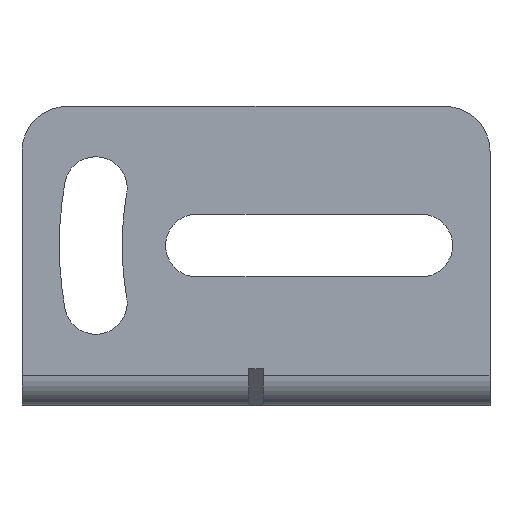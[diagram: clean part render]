
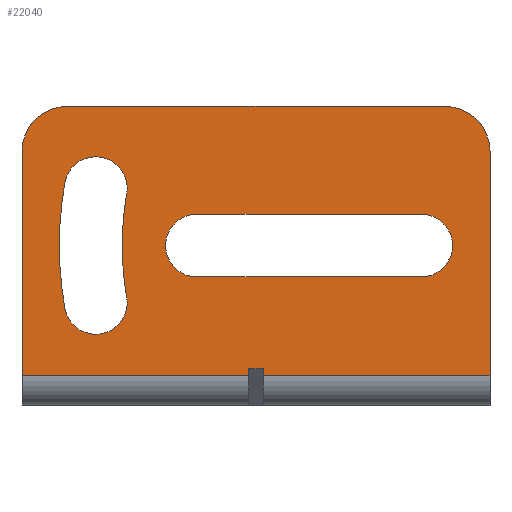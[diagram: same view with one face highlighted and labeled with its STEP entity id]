
A CAD part, front view. The second image highlights one B-rep face of the part: STEP entity #22040.
In plain terms, the highlighted planar face has unit normal (0, -1, 0).
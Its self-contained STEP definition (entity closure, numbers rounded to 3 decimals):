
#5000=CARTESIAN_POINT('',(-15.65,0.,17.));
#5010=VERTEX_POINT('',#5000);
#5040=CARTESIAN_POINT('',(-15.65,0.,0.));
#5050=DIRECTION('',(0.,0.,1.));
#5060=VECTOR('',#5050,1.);
#5070=LINE('',#5040,#5060);
#5080=CARTESIAN_POINT('',(-15.65,0.,2.));
#5090=VERTEX_POINT('',#5080);
#5100=EDGE_CURVE('',#5090,#5010,#5070,.T.);
#7600=CARTESIAN_POINT('',(11.05,0.,12.8));
#7610=VERTEX_POINT('',#7600);
#7640=CARTESIAN_POINT('',(11.05,0.,10.7));
#7650=DIRECTION('',(0.,-1.,0.));
#7660=DIRECTION('',(1.,0.,0.));
#7670=AXIS2_PLACEMENT_3D('',#7640,#7650,#7660);
#7680=CIRCLE('',#7670,2.1);
#7690=CARTESIAN_POINT('',(13.15,0.,10.7));
#7700=VERTEX_POINT('',#7690);
#7710=EDGE_CURVE('',#7700,#7610,#7680,.T.);
#7920=CARTESIAN_POINT('',(11.05,0.,8.6));
#7930=VERTEX_POINT('',#7920);
#7960=CARTESIAN_POINT('',(0.,0.,8.6));
#7970=DIRECTION('',(1.,0.,0.));
#7980=VECTOR('',#7970,1.);
#7990=LINE('',#7960,#7980);
#8000=CARTESIAN_POINT('',(-3.95,0.,8.6));
#8010=VERTEX_POINT('',#8000);
#8020=EDGE_CURVE('',#8010,#7930,#7990,.T.);
#8200=CARTESIAN_POINT('',(-3.95,0.,10.7));
#8210=DIRECTION('',(0.,-1.,0.));
#8220=DIRECTION('',(1.,0.,0.));
#8230=AXIS2_PLACEMENT_3D('',#8200,#8210,#8220);
#8240=CIRCLE('',#8230,2.1);
#8250=CARTESIAN_POINT('',(-6.05,0.,10.7));
#8260=VERTEX_POINT('',#8250);
#8270=EDGE_CURVE('',#8260,#8010,#8240,.T.);
#8480=CARTESIAN_POINT('',(-3.95,0.,12.8));
#8490=VERTEX_POINT('',#8480);
#8520=CARTESIAN_POINT('',(0.,0.,12.8));
#8530=DIRECTION('',(-1.,0.,0.));
#8540=VECTOR('',#8530,1.);
#8550=LINE('',#8520,#8540);
#8560=EDGE_CURVE('',#7610,#8490,#8550,.T.);
#8690=CARTESIAN_POINT('',(15.65,0.,2.));
#8700=VERTEX_POINT('',#8690);
#8730=CARTESIAN_POINT('',(15.65,0.,0.));
#8740=DIRECTION('',(0.,0.,1.));
#8750=VECTOR('',#8740,1.);
#8760=LINE('',#8730,#8750);
#8770=CARTESIAN_POINT('',(15.65,0.,17.));
#8780=VERTEX_POINT('',#8770);
#8790=EDGE_CURVE('',#8700,#8780,#8760,.T.);
#9920=CARTESIAN_POINT('',(0.5,0.,2.));
#9930=VERTEX_POINT('',#9920);
#9960=CARTESIAN_POINT('',(0.,0.,2.));
#9970=DIRECTION('',(1.,0.,0.));
#9980=VECTOR('',#9970,1.);
#9990=LINE('',#9960,#9980);
#10000=EDGE_CURVE('',#9930,#8700,#9990,.T.);
#10400=CARTESIAN_POINT('',(0.,0.,2.));
#10410=DIRECTION('',(1.,0.,0.));
#10420=VECTOR('',#10410,1.);
#10430=LINE('',#10400,#10420);
#10440=CARTESIAN_POINT('',(-0.5,0.,2.));
#10450=VERTEX_POINT('',#10440);
#10460=EDGE_CURVE('',#5090,#10450,#10430,.T.);
#10580=EDGE_CURVE('',#8490,#8260,#8240,.T.);
#10660=EDGE_CURVE('',#7930,#7700,#7680,.T.);
#20560=CARTESIAN_POINT('',(12.65,0.,20.));
#20570=VERTEX_POINT('',#20560);
#20600=CARTESIAN_POINT('',(-15.65,0.,20.));
#20610=DIRECTION('',(1.,0.,0.));
#20620=VECTOR('',#20610,1.);
#20630=LINE('',#20600,#20620);
#20640=CARTESIAN_POINT('',(-12.65,0.,20.));
#20650=VERTEX_POINT('',#20640);
#20660=EDGE_CURVE('',#20650,#20570,#20630,.T.);
#20940=CARTESIAN_POINT('',(15.65,0.,0.));
#20950=DIRECTION('',(-0.,-1.,-0.));
#20960=DIRECTION('',(-1.,0.,0.));
#20970=AXIS2_PLACEMENT_3D('',#20940,#20950,#20960);
#20980=PLANE('',#20970);
#20990=ORIENTED_EDGE('',*,*,#10580,.F.);
#21000=ORIENTED_EDGE('',*,*,#8270,.F.);
#21010=ORIENTED_EDGE('',*,*,#8020,.F.);
#21020=ORIENTED_EDGE('',*,*,#10660,.F.);
#21030=ORIENTED_EDGE('',*,*,#7710,.F.);
#21040=ORIENTED_EDGE('',*,*,#8560,.F.);
#21050=EDGE_LOOP('',(#21040,#21030,#21020,#21010,#21000,#20990));
#21060=FACE_BOUND('',#21050,.T.);
#21070=CARTESIAN_POINT('',(-10.714,0.,6.862));
#21080=DIRECTION('',(0.,-1.,0.));
#21090=DIRECTION('',(1.,0.,0.));
#21100=AXIS2_PLACEMENT_3D('',#21070,#21080,#21090);
#21110=CIRCLE('',#21100,2.1);
#21120=CARTESIAN_POINT('',(-12.782,0.,6.498));
#21130=VERTEX_POINT('',#21120);
#21140=CARTESIAN_POINT('',(-8.614,0.,6.862));
#21150=VERTEX_POINT('',#21140);
#21160=EDGE_CURVE('',#21130,#21150,#21110,.T.);
#21170=ORIENTED_EDGE('',*,*,#21160,.F.);
#21180=CARTESIAN_POINT('',(-8.646,0.,7.227));
#21190=VERTEX_POINT('',#21180);
#21200=EDGE_CURVE('',#21150,#21190,#21110,.T.);
#21210=ORIENTED_EDGE('',*,*,#21200,.F.);
#21220=CARTESIAN_POINT('',(11.05,0.,10.7));
#21230=DIRECTION('',(0.,-1.,0.));
#21240=DIRECTION('',(1.,0.,0.));
#21250=AXIS2_PLACEMENT_3D('',#21220,#21230,#21240);
#21260=CIRCLE('',#21250,20.);
#21270=CARTESIAN_POINT('',(-8.95,0.,10.7));
#21280=VERTEX_POINT('',#21270);
#21290=EDGE_CURVE('',#21280,#21190,#21260,.T.);
#21300=ORIENTED_EDGE('',*,*,#21290,.T.);
#21310=CARTESIAN_POINT('',(-8.646,0.,14.173));
#21320=VERTEX_POINT('',#21310);
#21330=EDGE_CURVE('',#21320,#21280,#21260,.T.);
#21340=ORIENTED_EDGE('',*,*,#21330,.T.);
#21350=CARTESIAN_POINT('',(-10.714,0.,14.538));
#21360=DIRECTION('',(0.,-1.,0.));
#21370=DIRECTION('',(1.,0.,0.));
#21380=AXIS2_PLACEMENT_3D('',#21350,#21360,#21370);
#21390=CIRCLE('',#21380,2.1);
#21400=CARTESIAN_POINT('',(-8.614,0.,14.538));
#21410=VERTEX_POINT('',#21400);
#21420=EDGE_CURVE('',#21320,#21410,#21390,.T.);
#21430=ORIENTED_EDGE('',*,*,#21420,.F.);
#21440=CARTESIAN_POINT('',(-12.782,0.,14.902));
#21450=VERTEX_POINT('',#21440);
#21460=EDGE_CURVE('',#21410,#21450,#21390,.T.);
#21470=ORIENTED_EDGE('',*,*,#21460,.F.);
#21480=CARTESIAN_POINT('',(11.05,0.,10.7));
#21490=DIRECTION('',(0.,-1.,0.));
#21500=DIRECTION('',(1.,0.,0.));
#21510=AXIS2_PLACEMENT_3D('',#21480,#21490,#21500);
#21520=CIRCLE('',#21510,24.2);
#21530=CARTESIAN_POINT('',(-13.15,0.,10.7));
#21540=VERTEX_POINT('',#21530);
#21550=EDGE_CURVE('',#21450,#21540,#21520,.T.);
#21560=ORIENTED_EDGE('',*,*,#21550,.F.);
#21570=EDGE_CURVE('',#21540,#21130,#21520,.T.);
#21580=ORIENTED_EDGE('',*,*,#21570,.F.);
#21590=EDGE_LOOP('',(#21580,#21560,#21470,#21430,#21340,#21300,#21210,
#21170));
#21600=FACE_BOUND('',#21590,.T.);
#21610=CARTESIAN_POINT('',(0.5,0.,0.));
#21620=DIRECTION('',(0.,0.,1.));
#21630=VECTOR('',#21620,1.);
#21640=LINE('',#21610,#21630);
#21650=CARTESIAN_POINT('',(0.5,0.,2.454));
#21660=VERTEX_POINT('',#21650);
#21670=EDGE_CURVE('',#9930,#21660,#21640,.T.);
#21680=ORIENTED_EDGE('',*,*,#21670,.F.);
#21690=CARTESIAN_POINT('',(0.,0.,2.454));
#21700=DIRECTION('',(-1.,0.,0.));
#21710=VECTOR('',#21700,1.);
#21720=LINE('',#21690,#21710);
#21730=CARTESIAN_POINT('',(-0.5,0.,2.454))
;
#21740=VERTEX_POINT('',#21730);
#21750=EDGE_CURVE('',#21660,#21740,#21720,.T.);
#21760=ORIENTED_EDGE('',*,*,#21750,.F.);
#21770=CARTESIAN_POINT('',(-0.5,0.,0.));
#21780=DIRECTION('',(0.,0.,1.));
#21790=VECTOR('',#21780,1.);
#21800=LINE('',#21770,#21790);
#21810=EDGE_CURVE('',#10450,#21740,#21800,.T.);
#21820=ORIENTED_EDGE('',*,*,#21810,.T.);
#21830=ORIENTED_EDGE('',*,*,#10460,.T.);
#21840=ORIENTED_EDGE('',*,*,#5100,.F.);
#21850=CARTESIAN_POINT('',(-12.65,0.,17.));
#21860=DIRECTION('',(0.,-1.,0.));
#21870=DIRECTION('',(-1.,0.,0.));
#21880=AXIS2_PLACEMENT_3D('',#21850,#21860,#21870);
#21890=CIRCLE('',#21880,3.);
#21900=EDGE_CURVE('',#20650,#5010,#21890,.T.);
#21910=ORIENTED_EDGE('',*,*,#21900,.T.);
#21920=ORIENTED_EDGE('',*,*,#20660,.F.);
#21930=CARTESIAN_POINT('',(12.65,0.,17.));
#21940=DIRECTION('',(0.,1.,0.));
#21950=DIRECTION('',(1.,0.,0.));
#21960=AXIS2_PLACEMENT_3D('',#21930,#21940,#21950);
#21970=CIRCLE('',#21960,3.);
#21980=EDGE_CURVE('',#20570,#8780,#21970,.T.);
#21990=ORIENTED_EDGE('',*,*,#21980,.F.);
#22000=ORIENTED_EDGE('',*,*,#8790,.T.);
#22010=ORIENTED_EDGE('',*,*,#10000,.T.);
#22020=EDGE_LOOP('',(#22010,#22000,#21990,#21920,#21910,#21840,#21830,
#21820,#21760,#21680));
#22030=FACE_OUTER_BOUND('',#22020,.T.);
#22040=ADVANCED_FACE('',(#21060,#21600,#22030),#20980,.T.);
